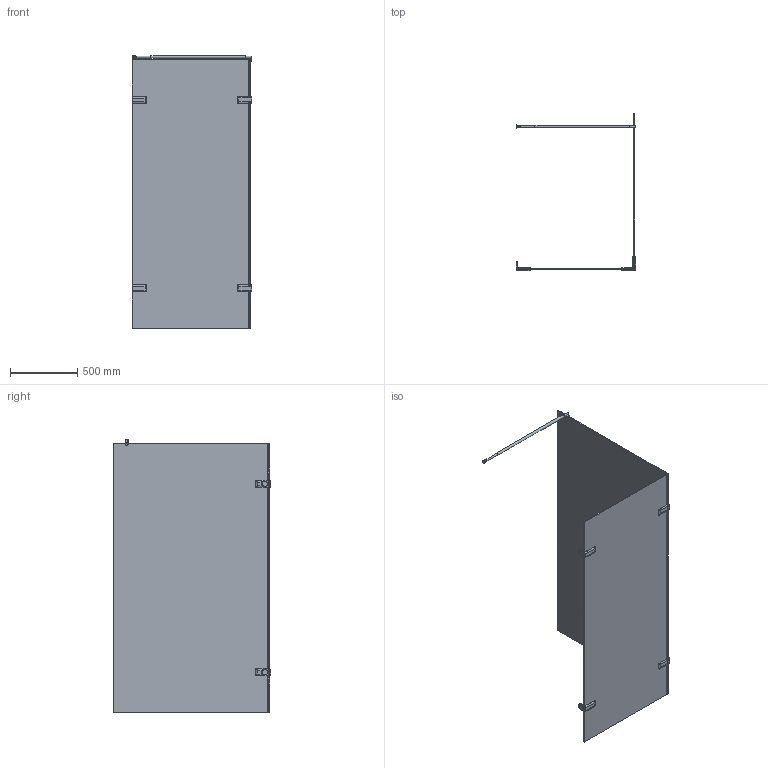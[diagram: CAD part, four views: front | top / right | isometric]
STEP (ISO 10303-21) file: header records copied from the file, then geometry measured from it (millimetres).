
FILE_DESCRIPTION(/* description */ (''),/* implementation_level */ '2;1');
FILE_NAME(/* name */ 'E:\Работа\Сергей\Душевые кабинки\! Работа\!!!!\50\TREND DOOR GK-882NG\TREND DOOR GK-882NG правая модель\TREND DOOR GK-882NG ПРАВАЯ-3D.stp',/* time_stamp */ '2018-11-06T19:42:28+03:00',/* author */ ('PC'),/* organization */ (''),/* preprocessor_version */ 'ST-DEVELOPER v15.2',/* originating_system */ 'Autodesk Inventor 2014',/* authorisation */ '');
FILE_SCHEMA (('CONFIG_CONTROL_DESIGN'));
Length unit declared in the file: millimetre
Products named in the file (1): TREND DOOR GK-882NG ПРАВАЯ-3D
Bounding box: 891 x 1168 x 2030.5 mm (x, y, z)
Volume: 33111164.7 mm3; surface area: 8326636.8 mm2
Topology: 3 solids, 3 shells, 240 faces, 612 edges, 373 vertices
Faces by surface type: plane 101, cylinder 66, bspline 37, torus 24, sphere 10, cone 2
Full cylindrical faces by diameter (mm): 15 x2, 20 x3, 26 x1, 40 x2
Entity records: 9360 total; most frequent: CARTESIAN_POINT 3676, ORIENTED_EDGE 1106, DIRECTION 1063, EDGE_CURVE 553, AXIS2_PLACEMENT_3D 378, VERTEX_POINT 363, LINE 307, VECTOR 307
